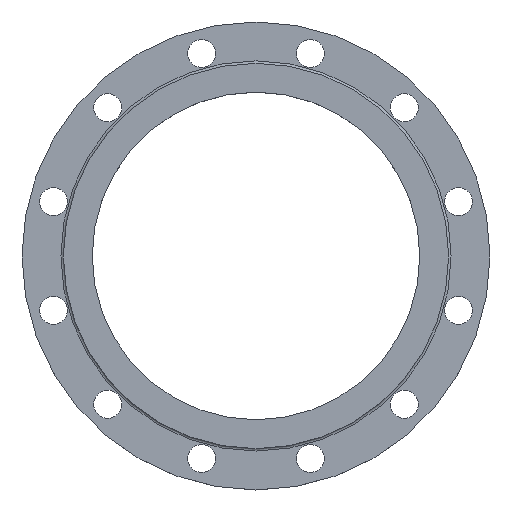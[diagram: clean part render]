
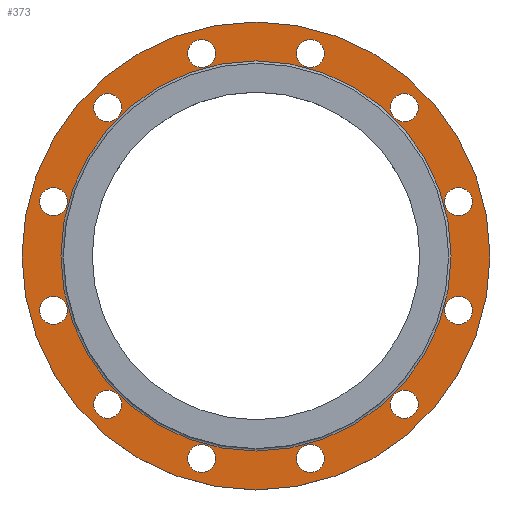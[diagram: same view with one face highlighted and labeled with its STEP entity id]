
A CAD part, top view. The second image highlights one B-rep face of the part: STEP entity #373.
In plain terms, the highlighted planar face has unit normal (0, 0, 1).
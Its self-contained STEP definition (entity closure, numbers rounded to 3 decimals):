
#57=FACE_BOUND('',#107,.T.);
#58=FACE_BOUND('',#108,.T.);
#59=FACE_BOUND('',#109,.T.);
#60=FACE_BOUND('',#110,.T.);
#61=FACE_BOUND('',#111,.T.);
#62=FACE_BOUND('',#112,.T.);
#63=FACE_BOUND('',#113,.T.);
#64=FACE_BOUND('',#114,.T.);
#65=FACE_BOUND('',#115,.T.);
#66=FACE_BOUND('',#116,.T.);
#67=FACE_BOUND('',#117,.T.);
#68=FACE_BOUND('',#118,.T.);
#69=FACE_BOUND('',#119,.T.);
#84=PLANE('',#416);
#88=FACE_OUTER_BOUND('',#106,.T.);
#106=EDGE_LOOP('',(#277,#278));
#107=EDGE_LOOP('',(#279));
#108=EDGE_LOOP('',(#280));
#109=EDGE_LOOP('',(#281));
#110=EDGE_LOOP('',(#282));
#111=EDGE_LOOP('',(#283));
#112=EDGE_LOOP('',(#284));
#113=EDGE_LOOP('',(#285));
#114=EDGE_LOOP('',(#286));
#115=EDGE_LOOP('',(#287));
#116=EDGE_LOOP('',(#288));
#117=EDGE_LOOP('',(#289));
#118=EDGE_LOOP('',(#290));
#119=EDGE_LOOP('',(#291,#292));
#150=CIRCLE('',#411,160.5);
#154=CIRCLE('',#415,160.5);
#155=CIRCLE('',#417,192.5);
#156=CIRCLE('',#418,192.5);
#157=CIRCLE('',#419,11.5);
#158=CIRCLE('',#420,11.5);
#159=CIRCLE('',#421,11.5);
#160=CIRCLE('',#422,11.5);
#161=CIRCLE('',#423,11.5);
#162=CIRCLE('',#424,11.5);
#163=CIRCLE('',#425,11.5);
#164=CIRCLE('',#426,11.5);
#165=CIRCLE('',#427,11.5);
#166=CIRCLE('',#428,11.5);
#167=CIRCLE('',#429,11.5);
#168=CIRCLE('',#430,11.5);
#186=VERTEX_POINT('',#590);
#187=VERTEX_POINT('',#591);
#190=VERTEX_POINT('',#600);
#191=VERTEX_POINT('',#601);
#192=VERTEX_POINT('',#604);
#193=VERTEX_POINT('',#606);
#194=VERTEX_POINT('',#608);
#195=VERTEX_POINT('',#610);
#196=VERTEX_POINT('',#612);
#197=VERTEX_POINT('',#614);
#198=VERTEX_POINT('',#616);
#199=VERTEX_POINT('',#618);
#200=VERTEX_POINT('',#620);
#201=VERTEX_POINT('',#622);
#202=VERTEX_POINT('',#624);
#203=VERTEX_POINT('',#626);
#221=EDGE_CURVE('',#186,#187,#150,.T.);
#225=EDGE_CURVE('',#187,#186,#154,.T.);
#226=EDGE_CURVE('',#190,#191,#155,.T.);
#227=EDGE_CURVE('',#191,#190,#156,.T.);
#228=EDGE_CURVE('',#192,#192,#157,.T.);
#229=EDGE_CURVE('',#193,#193,#158,.T.);
#230=EDGE_CURVE('',#194,#194,#159,.T.);
#231=EDGE_CURVE('',#195,#195,#160,.T.);
#232=EDGE_CURVE('',#196,#196,#161,.T.);
#233=EDGE_CURVE('',#197,#197,#162,.T.);
#234=EDGE_CURVE('',#198,#198,#163,.T.);
#235=EDGE_CURVE('',#199,#199,#164,.T.);
#236=EDGE_CURVE('',#200,#200,#165,.T.);
#237=EDGE_CURVE('',#201,#201,#166,.T.);
#238=EDGE_CURVE('',#202,#202,#167,.T.);
#239=EDGE_CURVE('',#203,#203,#168,.T.);
#277=ORIENTED_EDGE('',*,*,#226,.F.);
#278=ORIENTED_EDGE('',*,*,#227,.F.);
#279=ORIENTED_EDGE('',*,*,#228,.F.);
#280=ORIENTED_EDGE('',*,*,#229,.F.);
#281=ORIENTED_EDGE('',*,*,#230,.F.);
#282=ORIENTED_EDGE('',*,*,#231,.F.);
#283=ORIENTED_EDGE('',*,*,#232,.F.);
#284=ORIENTED_EDGE('',*,*,#233,.F.);
#285=ORIENTED_EDGE('',*,*,#234,.F.);
#286=ORIENTED_EDGE('',*,*,#235,.F.);
#287=ORIENTED_EDGE('',*,*,#236,.F.);
#288=ORIENTED_EDGE('',*,*,#237,.F.);
#289=ORIENTED_EDGE('',*,*,#238,.F.);
#290=ORIENTED_EDGE('',*,*,#239,.F.);
#291=ORIENTED_EDGE('',*,*,#221,.F.);
#292=ORIENTED_EDGE('',*,*,#225,.F.);
#373=ADVANCED_FACE('',(#88,#57,#58,#59,#60,#61,#62,#63,#64,#65,#66,#67,
#68,#69),#84,.T.);
#411=AXIS2_PLACEMENT_3D('',#592,#468,#469);
#415=AXIS2_PLACEMENT_3D('',#598,#476,#477);
#416=AXIS2_PLACEMENT_3D('',#599,#478,#479);
#417=AXIS2_PLACEMENT_3D('',#602,#480,#481);
#418=AXIS2_PLACEMENT_3D('',#603,#482,#483);
#419=AXIS2_PLACEMENT_3D('',#605,#484,#485);
#420=AXIS2_PLACEMENT_3D('',#607,#486,#487);
#421=AXIS2_PLACEMENT_3D('',#609,#488,#489);
#422=AXIS2_PLACEMENT_3D('',#611,#490,#491);
#423=AXIS2_PLACEMENT_3D('',#613,#492,#493);
#424=AXIS2_PLACEMENT_3D('',#615,#494,#495);
#425=AXIS2_PLACEMENT_3D('',#617,#496,#497);
#426=AXIS2_PLACEMENT_3D('',#619,#498,#499);
#427=AXIS2_PLACEMENT_3D('',#621,#500,#501);
#428=AXIS2_PLACEMENT_3D('',#623,#502,#503);
#429=AXIS2_PLACEMENT_3D('',#625,#504,#505);
#430=AXIS2_PLACEMENT_3D('',#627,#506,#507);
#468=DIRECTION('center_axis',(0.,0.,1.));
#469=DIRECTION('ref_axis',(-1.,0.,0.));
#476=DIRECTION('center_axis',(0.,0.,1.));
#477=DIRECTION('ref_axis',(-1.,0.,0.));
#478=DIRECTION('center_axis',(0.,0.,1.));
#479=DIRECTION('ref_axis',(1.,0.,0.));
#480=DIRECTION('center_axis',(0.,0.,-1.));
#481=DIRECTION('ref_axis',(1.,0.,0.));
#482=DIRECTION('center_axis',(0.,0.,-1.));
#483=DIRECTION('ref_axis',(1.,0.,0.));
#484=DIRECTION('center_axis',(0.,0.,1.));
#485=DIRECTION('ref_axis',(1.,0.,0.));
#486=DIRECTION('center_axis',(0.,0.,1.));
#487=DIRECTION('ref_axis',(0.866,0.5,0.));
#488=DIRECTION('center_axis',(0.,0.,1.));
#489=DIRECTION('ref_axis',(0.5,0.866,0.));
#490=DIRECTION('center_axis',(0.,0.,1.));
#491=DIRECTION('ref_axis',(0.,1.,0.));
#492=DIRECTION('center_axis',(0.,0.,1.));
#493=DIRECTION('ref_axis',(-0.5,0.866,0.));
#494=DIRECTION('center_axis',(0.,0.,1.));
#495=DIRECTION('ref_axis',(-0.866,0.5,0.));
#496=DIRECTION('center_axis',(0.,0.,1.));
#497=DIRECTION('ref_axis',(-1.,0.,0.));
#498=DIRECTION('center_axis',(0.,0.,1.));
#499=DIRECTION('ref_axis',(-0.866,-0.5,0.));
#500=DIRECTION('center_axis',(0.,0.,1.));
#501=DIRECTION('ref_axis',(-0.5,-0.866,0.));
#502=DIRECTION('center_axis',(0.,0.,1.));
#503=DIRECTION('ref_axis',(0.,-1.,0.));
#504=DIRECTION('center_axis',(0.,0.,1.));
#505=DIRECTION('ref_axis',(0.5,-0.866,0.));
#506=DIRECTION('center_axis',(0.,0.,1.));
#507=DIRECTION('ref_axis',(0.866,-0.5,0.));
#590=CARTESIAN_POINT('',(160.5,0.,20.));
#591=CARTESIAN_POINT('',(-160.5,0.,20.));
#592=CARTESIAN_POINT('Origin',(0.,0.,20.));
#598=CARTESIAN_POINT('Origin',(0.,0.,20.));
#599=CARTESIAN_POINT('Origin',(0.,0.,20.));
#600=CARTESIAN_POINT('',(192.5,0.,20.));
#601=CARTESIAN_POINT('',(-192.5,0.,20.));
#602=CARTESIAN_POINT('Origin',(0.,0.,20.));
#603=CARTESIAN_POINT('Origin',(0.,0.,20.));
#604=CARTESIAN_POINT('',(-56.146,166.622,20.));
#605=CARTESIAN_POINT('Origin',(-44.646,166.622,20.));
#606=CARTESIAN_POINT('',(-131.935,116.226,20.));
#607=CARTESIAN_POINT('Origin',(-121.976,121.976,20.));
#608=CARTESIAN_POINT('',(-172.372,34.687,20.));
#609=CARTESIAN_POINT('Origin',(-166.622,44.646,20.));
#610=CARTESIAN_POINT('',(-166.622,-56.146,20.));
#611=CARTESIAN_POINT('Origin',(-166.622,-44.646,20.));
#612=CARTESIAN_POINT('',(-116.226,-131.935,20.));
#613=CARTESIAN_POINT('Origin',(-121.976,-121.976,20.));
#614=CARTESIAN_POINT('',(-34.687,-172.372,20.));
#615=CARTESIAN_POINT('Origin',(-44.646,-166.622,20.));
#616=CARTESIAN_POINT('',(56.146,-166.622,20.));
#617=CARTESIAN_POINT('Origin',(44.646,-166.622,20.));
#618=CARTESIAN_POINT('',(131.935,-116.226,20.));
#619=CARTESIAN_POINT('Origin',(121.976,-121.976,20.));
#620=CARTESIAN_POINT('',(172.372,-34.687,20.));
#621=CARTESIAN_POINT('Origin',(166.622,-44.646,20.));
#622=CARTESIAN_POINT('',(166.622,56.146,20.));
#623=CARTESIAN_POINT('Origin',(166.622,44.646,20.));
#624=CARTESIAN_POINT('',(116.226,131.935,20.));
#625=CARTESIAN_POINT('Origin',(121.976,121.976,20.));
#626=CARTESIAN_POINT('',(34.687,172.372,20.));
#627=CARTESIAN_POINT('Origin',(44.646,166.622,20.));
